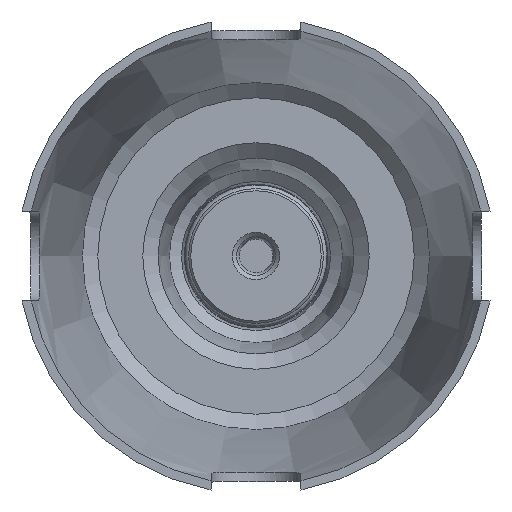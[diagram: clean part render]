
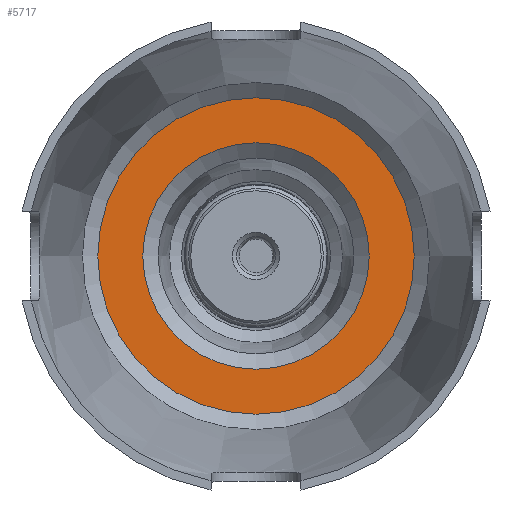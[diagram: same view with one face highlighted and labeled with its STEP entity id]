
A CAD part, front view. The second image highlights one B-rep face of the part: STEP entity #5717.
In plain terms, the highlighted planar face has unit normal (0, -1, 0).
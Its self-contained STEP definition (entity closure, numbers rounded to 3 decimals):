
#529=FACE_BOUND('',#2055,.T.);
#670=PLANE('',#6080);
#1687=FACE_OUTER_BOUND('',#2054,.T.);
#2054=EDGE_LOOP('',(#4995));
#2055=EDGE_LOOP('',(#4996));
#2192=CIRCLE('',#6079,35.191);
#2193=CIRCLE('',#6081,25.18);
#2712=VERTEX_POINT('',#11248);
#2713=VERTEX_POINT('',#11252);
#3488=EDGE_CURVE('',#2712,#2712,#2192,.T.);
#3490=EDGE_CURVE('',#2713,#2713,#2193,.T.);
#4995=ORIENTED_EDGE('',*,*,#3488,.F.);
#4996=ORIENTED_EDGE('',*,*,#3490,.F.);
#5717=ADVANCED_FACE('',(#1687,#529),#670,.F.);
#6079=AXIS2_PLACEMENT_3D('',#11249,#7067,#7068);
#6080=AXIS2_PLACEMENT_3D('',#11251,#7070,#7071);
#6081=AXIS2_PLACEMENT_3D('',#11253,#7072,#7073);
#7067=DIRECTION('center_axis',(0.,1.,0.));
#7068=DIRECTION('ref_axis',(1.,0.,0.));
#7070=DIRECTION('center_axis',(0.,1.,0.));
#7071=DIRECTION('ref_axis',(0.,0.,1.));
#7072=DIRECTION('center_axis',(0.,-1.,0.));
#7073=DIRECTION('ref_axis',(1.,0.,0.));
#11248=CARTESIAN_POINT('',(-35.191,45.5,0.));
#11249=CARTESIAN_POINT('Origin',(0.,45.5,0.));
#11251=CARTESIAN_POINT('Origin',(-38.191,45.5,0.));
#11252=CARTESIAN_POINT('',(-25.18,45.5,0.));
#11253=CARTESIAN_POINT('Origin',(0.,45.5,0.));
